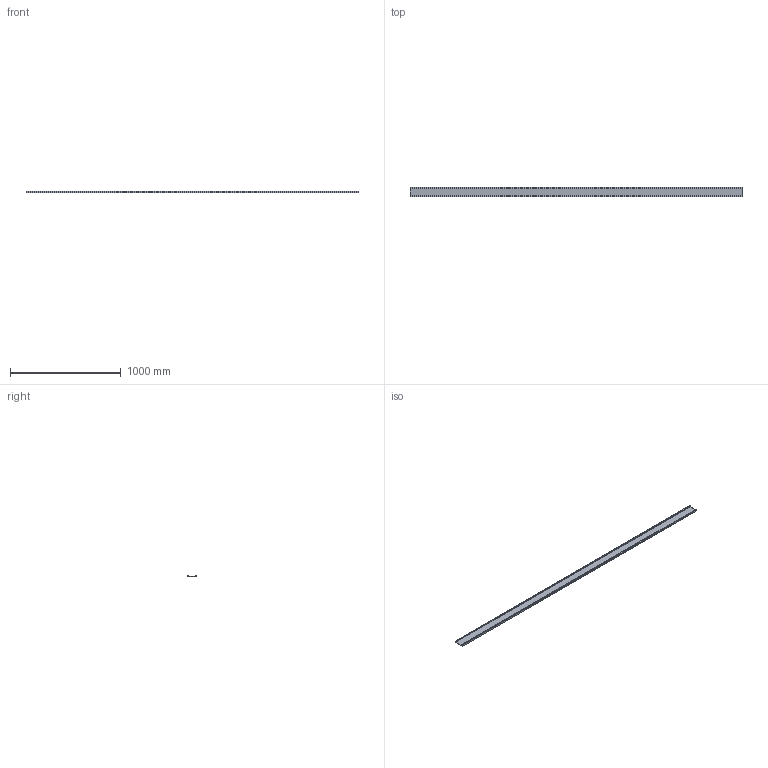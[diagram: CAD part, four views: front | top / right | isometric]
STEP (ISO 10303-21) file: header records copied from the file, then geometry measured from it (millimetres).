
FILE_DESCRIPTION (( 'STEP AP214' ), '1' );
FILE_NAME ('FABER - FD7 8.STEP', '2017-04-06T07:38:34', ( '' ), ( '' ), 'SwSTEP 2.0', 'SolidWorks 2016', '' );
FILE_SCHEMA (( 'AUTOMOTIVE_DESIGN' ));
Length unit declared in the file: millimetre
Products named in the file (1): FABER - FD7 8
Bounding box: 3000 x 90 x 15 mm (x, y, z)
Volume: 1768500 mm3; surface area: 757179 mm2
Topology: 1 solids, 1 shells, 14 faces, 36 edges, 24 vertices
Faces by surface type: plane 14
Entity records: 454 total; most frequent: CARTESIAN_POINT 75, ORIENTED_EDGE 72, DIRECTION 66, EDGE_CURVE 36, LINE 36, VECTOR 36, VERTEX_POINT 24, AXIS2_PLACEMENT_3D 15
